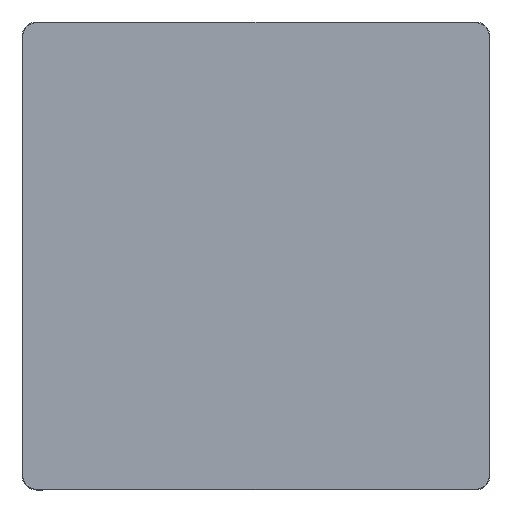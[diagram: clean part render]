
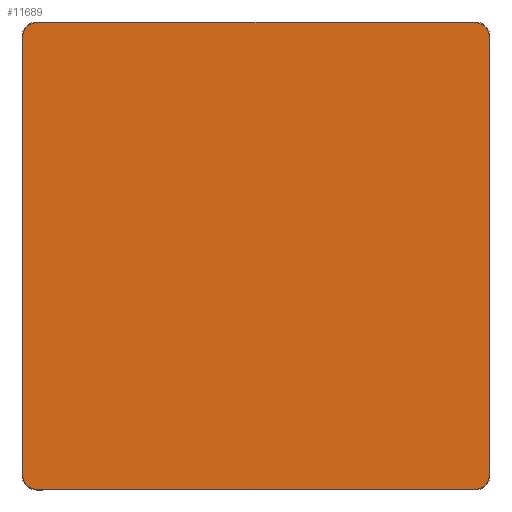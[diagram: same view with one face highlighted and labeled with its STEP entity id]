
A CAD part, top view. The second image highlights one B-rep face of the part: STEP entity #11689.
In plain terms, the highlighted planar face has unit normal (0, 0, 1).
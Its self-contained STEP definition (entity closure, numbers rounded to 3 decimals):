
#11614=CARTESIAN_POINT('',(0.,0.,20.));
#11615=DIRECTION('',(1.,0.,0.));
#11616=DIRECTION('',(0.,0.,1.));
#11617=AXIS2_PLACEMENT_3D('',#11614,#11616,#11615);
#11618=PLANE('',#11617);
#11619=CARTESIAN_POINT('',(-515.,-548.5,20.));
#11620=VERTEX_POINT('',#11619);
#11621=CARTESIAN_POINT('',(515.,-548.5,20.));
#11622=VERTEX_POINT('',#11621);
#11623=CARTESIAN_POINT('',(-515.,-548.5,20.));
#11624=DIRECTION('',(1.,0.,0.));
#11625=VECTOR('',#11624,1030.);
#11626=LINE('',#11623,#11625);
#11627=EDGE_CURVE('',#11620,#11622,#11626,.T.);
#11628=ORIENTED_EDGE('E105',*,*,#11627,.T.);
#11629=CARTESIAN_POINT('',(548.5,-515.,20.));
#11630=VERTEX_POINT('',#11629);
#11631=CARTESIAN_POINT('',(515.,-515.,20.));
#11632=DIRECTION('',(0.,-1.,0.));
#11633=DIRECTION('',(0.,-0.,1.));
#11634=AXIS2_PLACEMENT_3D('',#11631,#11633,#11632);
#11635=CIRCLE('',#11634,33.5);
#11636=EDGE_CURVE('',#11622,#11630,#11635,.T.);
#11637=ORIENTED_EDGE('E107',*,*,#11636,.T.);
#11638=CARTESIAN_POINT('',(548.5,515.,20.));
#11639=VERTEX_POINT('',#11638);
#11640=CARTESIAN_POINT('',(548.5,-515.,20.));
#11641=DIRECTION('',(0.,1.,0.));
#11642=VECTOR('',#11641,1030.);
#11643=LINE('',#11640,#11642);
#11644=EDGE_CURVE('',#11630,#11639,#11643,.T.);
#11645=ORIENTED_EDGE('E109',*,*,#11644,.T.);
#11646=CARTESIAN_POINT('',(515.,548.5,20.));
#11647=VERTEX_POINT('',#11646);
#11648=CARTESIAN_POINT('',(515.,515.,20.));
#11649=DIRECTION('',(1.,0.,0.));
#11650=DIRECTION('',(0.,0.,1.));
#11651=AXIS2_PLACEMENT_3D('',#11648,#11650,#11649);
#11652=CIRCLE('',#11651,33.5);
#11653=EDGE_CURVE('',#11639,#11647,#11652,.T.);
#11654=ORIENTED_EDGE('E111',*,*,#11653,.T.);
#11655=CARTESIAN_POINT('',(-515.,548.5,20.));
#11656=VERTEX_POINT('',#11655);
#11657=CARTESIAN_POINT('',(515.,548.5,20.));
#11658=DIRECTION('',(-1.,0.,0.));
#11659=VECTOR('',#11658,1030.);
#11660=LINE('',#11657,#11659);
#11661=EDGE_CURVE('',#11647,#11656,#11660,.T.);
#11662=ORIENTED_EDGE('E113',*,*,#11661,.T.);
#11663=CARTESIAN_POINT('',(-548.5,515.,20.));
#11664=VERTEX_POINT('',#11663);
#11665=CARTESIAN_POINT('',(-515.,515.,20.));
#11666=DIRECTION('',(0.,1.,0.));
#11667=DIRECTION('',(0.,0.,1.));
#11668=AXIS2_PLACEMENT_3D('',#11665,#11667,#11666);
#11669=CIRCLE('',#11668,33.5);
#11670=EDGE_CURVE('',#11656,#11664,#11669,.T.);
#11671=ORIENTED_EDGE('E115',*,*,#11670,.T.);
#11672=CARTESIAN_POINT('',(-548.5,-515.,20.));
#11673=VERTEX_POINT('',#11672);
#11674=CARTESIAN_POINT('',(-548.5,515.,20.));
#11675=DIRECTION('',(0.,-1.,0.));
#11676=VECTOR('',#11675,1030.);
#11677=LINE('',#11674,#11676);
#11678=EDGE_CURVE('',#11664,#11673,#11677,.T.);
#11679=ORIENTED_EDGE('E117',*,*,#11678,.T.);
#11680=CARTESIAN_POINT('',(-515.,-515.,20.));
#11681=DIRECTION('',(-1.,0.,0.));
#11682=DIRECTION('',(0.,0.,1.));
#11683=AXIS2_PLACEMENT_3D('',#11680,#11682,#11681);
#11684=CIRCLE('',#11683,33.5);
#11685=EDGE_CURVE('',#11673,#11620,#11684,.T.);
#11686=ORIENTED_EDGE('E119',*,*,#11685,.T.);
#11687=EDGE_LOOP('',(#11628,#11637,#11645,#11654,#11662,#11671,#11679,#11686));
#11688=FACE_OUTER_BOUND('',#11687,.T.);
#11689=ADVANCED_FACE('F2',(#11688),#11618,.T.);
